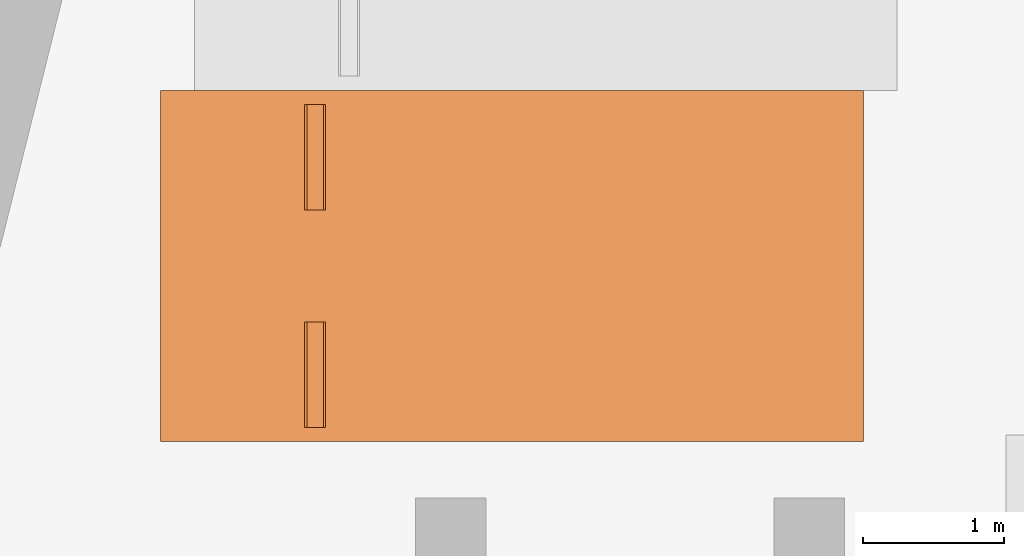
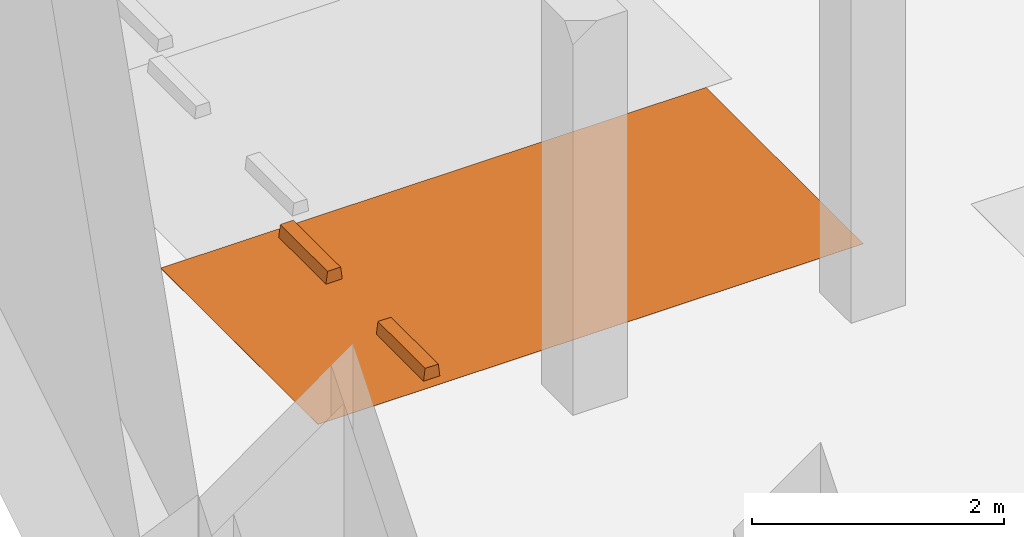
# One storey, part 28 of 30: 1 proxy.
"""IFC2X3 building model written with IfcOpenShell, lengths in millimetres."""

from ifc_helpers import new_model, entity, si_unit, converted_unit, derived_unit, direction, frame, origin, origin_2d_with_axis, place, context, subcontext, project, spatial, polyline, rectangle, outline, extrude, source, transform, mapped, material, material_list, type_object, type_shapes, element, save


model = new_model("IFC2X3")

# Units and contexts
model_context = context("Model", 3, precision=0.01, world=origin(), true_north=direction((6.123031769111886e-17, 1.0)))
body_context = subcontext(model_context, "Body", "Model", "MODEL_VIEW")
ifc_project = project(units=[si_unit("LENGTHUNIT", "METRE", prefix="MILLI"), si_unit("AREAUNIT", "SQUARE_METRE"), si_unit("VOLUMEUNIT", "CUBIC_METRE"), converted_unit("PLANEANGLEUNIT", "DEGREE", entity("IfcRatioMeasure", 0.017453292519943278), si_unit("PLANEANGLEUNIT", "RADIAN"), dimensions=[0, 0, 0, 0, 0, 0, 0]), si_unit("MASSUNIT", "GRAM", prefix="KILO"), derived_unit("MASSDENSITYUNIT", [(si_unit("MASSUNIT", "GRAM", prefix="KILO"), 1), (si_unit("LENGTHUNIT", "METRE"), -3)]), derived_unit("MOMENTOFINERTIAUNIT", [(si_unit("LENGTHUNIT", "METRE"), 4)]), si_unit("TIMEUNIT", "SECOND"), si_unit("FREQUENCYUNIT", "HERTZ"), si_unit("THERMODYNAMICTEMPERATUREUNIT", "DEGREE_CELSIUS"), derived_unit("THERMALTRANSMITTANCEUNIT", [(si_unit("MASSUNIT", "GRAM", prefix="KILO"), 1), (si_unit("THERMODYNAMICTEMPERATUREUNIT", "KELVIN"), -1), (si_unit("TIMEUNIT", "SECOND"), -3)]), derived_unit("VOLUMETRICFLOWRATEUNIT", [(si_unit("LENGTHUNIT", "METRE"), 3), (si_unit("TIMEUNIT", "SECOND"), -1)]), derived_unit("MASSFLOWRATEUNIT", [(si_unit("MASSUNIT", "GRAM", prefix="KILO"), 1), (si_unit("TIMEUNIT", "SECOND"), -1)]), derived_unit("ROTATIONALFREQUENCYUNIT", [(si_unit("TIMEUNIT", "SECOND"), -1)]), si_unit("ELECTRICCURRENTUNIT", "AMPERE"), si_unit("ELECTRICVOLTAGEUNIT", "VOLT"), si_unit("POWERUNIT", "WATT"), si_unit("FORCEUNIT", "NEWTON", prefix="KILO"), si_unit("ILLUMINANCEUNIT", "LUX"), si_unit("LUMINOUSFLUXUNIT", "LUMEN"), si_unit("LUMINOUSINTENSITYUNIT", "CANDELA"), derived_unit("USERDEFINED", [(si_unit("MASSUNIT", "GRAM", prefix="KILO"), -1), (si_unit("LENGTHUNIT", "METRE"), -2), (si_unit("TIMEUNIT", "SECOND"), 3), (si_unit("LUMINOUSFLUXUNIT", "LUMEN"), 1)]), derived_unit("SOUNDPOWERUNIT", [(si_unit("MASSUNIT", "GRAM", prefix="KILO"), 1), (si_unit("LENGTHUNIT", "METRE"), 2), (si_unit("TIMEUNIT", "SECOND"), -3)]), derived_unit("SOUNDPRESSUREUNIT", [(si_unit("MASSUNIT", "GRAM", prefix="KILO"), 1), (si_unit("LENGTHUNIT", "METRE"), -1), (si_unit("TIMEUNIT", "SECOND"), -2)]), derived_unit("LINEARVELOCITYUNIT", [(si_unit("LENGTHUNIT", "METRE"), 1), (si_unit("TIMEUNIT", "SECOND"), -1)]), si_unit("PRESSUREUNIT", "PASCAL"), derived_unit("USERDEFINED", [(si_unit("LENGTHUNIT", "METRE"), -2), (si_unit("MASSUNIT", "GRAM", prefix="KILO"), 1), (si_unit("TIMEUNIT", "SECOND"), -2)]), derived_unit("LINEARFORCEUNIT", [(si_unit("MASSUNIT", "GRAM", prefix="KILO"), 1), (si_unit("LENGTHUNIT", "METRE"), 1), (si_unit("TIMEUNIT", "SECOND"), -2), (si_unit("LENGTHUNIT", "METRE"), -1)]), derived_unit("PLANARFORCEUNIT", [(si_unit("MASSUNIT", "GRAM", prefix="KILO"), 1), (si_unit("LENGTHUNIT", "METRE"), 1), (si_unit("TIMEUNIT", "SECOND"), -2), (si_unit("LENGTHUNIT", "METRE"), -2)])], contexts=[model_context])

# Site, building, storey, space
site_placement = place(None, frame((-14167.972527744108, -657.2125860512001, 0.0)))
site = spatial("IfcSite", under=ifc_project, at=site_placement, Name="Default", CompositionType="ELEMENT")
building_placement = place(site_placement, origin())
building = spatial("IfcBuilding", under=site, at=building_placement, Name="Sample Building", CompositionType="ELEMENT")
storey_placement = place(building_placement, frame((0.0, 0.0, -10100.0)))
storey = spatial("IfcBuildingStorey", under=building, at=storey_placement, Name="지하2층", CompositionType="ELEMENT", Elevation=-10100.0)
space_placement = place(storey_placement, origin())
space = spatial("IfcSpace", under=storey, at=space_placement, Name="125", CompositionType="ELEMENT", InteriorOrExteriorSpace="INTERNAL")

# Proxy
ifc_material_1 = material(Name="KBIMS-고무_검은색")
ifc_material_2 = material(Name="KBIMS-에폭시 페인트")
ifc_material_list_1 = material_list([ifc_material_1, ifc_material_1, ifc_material_2])
ifc_material_list_2 = material_list([ifc_material_1, ifc_material_1, ifc_material_2])
building_element_proxy_type = type_object("IfcBuildingElementProxyType", Name="SE251-기본주차:SE251-기본주차 일반형", PredefinedType="NOTDEFINED", material=ifc_material_list_2)
shared_shape = source(origin(), body_context, "Body", "SweptSolid", [
    extrude(outline(polyline([(-60.0, -60.0), (60.0, -60.0), (75.0, 60.0), (-75.0, 60.0), (-60.0, -60.0)])), frame((220.98490989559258, -2900.0, 60.0), z_axis=(1.0, 0.0, 0.0), x_axis=(0.0, -1.0, 0.0)), (0.0, 0.0, 1.0), 749.9999999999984),
    extrude(outline(polyline([(-75.0, -60.0), (75.0, -60.0), (60.0, 60.0), (-60.0, 60.0), (-75.0, -60.0)])), frame((-1329.0150901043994, -2900.0, 60.0), z_axis=(1.0, 0.0, 0.0), x_axis=(0.0, 1.0, 0.0)), (0.0, 0.0, 1.0), 749.999999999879),
    extrude(rectangle(XDim=4999.999999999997, YDim=2499.9999999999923, at=origin_2d_with_axis()), frame((-179.01509010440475, -1500.0, 0.0), z_axis=(0.0, 0.0, 1.0), x_axis=(0.0, 1.0, 0.0)), (0.0, 0.0, 1.0), 1.6),
])
type_shapes(building_element_proxy_type, [shared_shape])
proxy_placement = place(space_placement, frame((16252.944213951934, 5879.30849970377, 100.0), z_axis=(0.0, 0.0, 1.0), x_axis=(0.0, -1.0, 0.0)))
element("IfcBuildingElementProxy", 1, at=proxy_placement, inside=space, type_object=building_element_proxy_type, material=ifc_material_list_1, Name="SE251-기본주차:SE251-기본주차 일반형", ObjectType="SE251-기본주차:SE251-기본주차 일반형", context=body_context, shape_type="MappedRepresentation", body=[
    mapped(shared_shape, transform((0.0, 0.0, 0.0), scale=1.0)),
])

save(model, "model.ifc")
